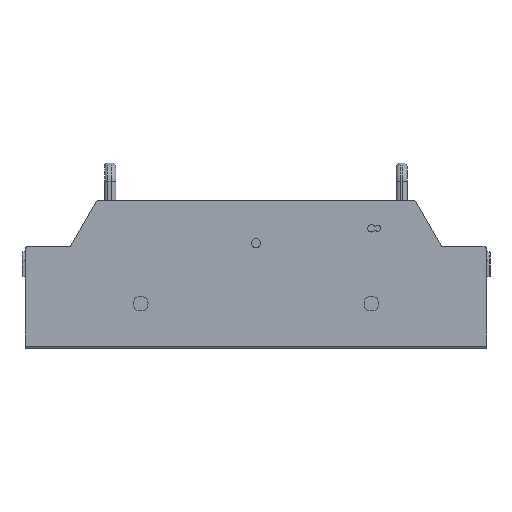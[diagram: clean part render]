
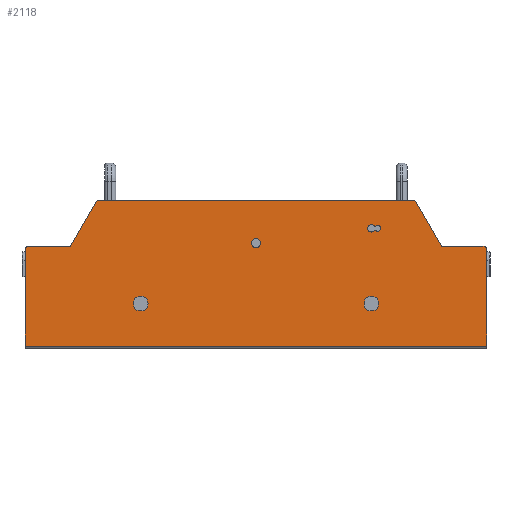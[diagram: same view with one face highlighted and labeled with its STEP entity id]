
A CAD part, top view. The second image highlights one B-rep face of the part: STEP entity #2118.
In plain terms, the highlighted planar face has unit normal (0, 0, 1).
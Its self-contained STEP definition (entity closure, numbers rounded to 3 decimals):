
#129=DIRECTION('',(0.,-1.,0.));
#130=VECTOR('',#129,105.);
#131=CARTESIAN_POINT('',(-250.,13.422,36.));
#132=LINE('',#131,#130);
#173=DIRECTION('',(1.,0.,0.));
#174=VECTOR('',#173,500.);
#175=CARTESIAN_POINT('',(-250.,-91.578,36.));
#176=LINE('',#175,#174);
#181=CARTESIAN_POINT('',(-247.,13.422,36.));
#182=DIRECTION('',(0.,0.,-1.));
#183=DIRECTION('',(-1.,0.,0.));
#184=AXIS2_PLACEMENT_3D('',#181,#182,#183);
#186=DIRECTION('',(0.5,0.866,0.));
#187=VECTOR('',#186,55.31);
#188=CARTESIAN_POINT('',(-201.261,16.422,36.));
#189=LINE('',#188,#187);
#190=CARTESIAN_POINT('',(-171.008,62.822,36.));
#191=DIRECTION('',(0.,0.,-1.));
#192=DIRECTION('',(-0.866,0.5,0.));
#193=AXIS2_PLACEMENT_3D('',#190,#191,#192);
#195=CARTESIAN_POINT('',(171.008,62.822,36.));
#196=DIRECTION('',(0.,0.,-1.));
#197=DIRECTION('',(0.,1.,0.));
#198=AXIS2_PLACEMENT_3D('',#195,#196,#197);
#200=DIRECTION('',(0.5,-0.866,0.));
#201=VECTOR('',#200,55.31);
#202=CARTESIAN_POINT('',(173.606,64.322,36.));
#203=LINE('',#202,#201);
#204=CARTESIAN_POINT('',(247.,13.422,36.));
#205=DIRECTION('',(0.,0.,-1.));
#206=DIRECTION('',(0.,1.,0.));
#207=AXIS2_PLACEMENT_3D('',#204,#205,#206);
#209=CARTESIAN_POINT('',(0.,20.004,36.));
#210=DIRECTION('',(0.,0.,1.));
#211=DIRECTION('',(1.,0.,0.));
#212=AXIS2_PLACEMENT_3D('',#209,#210,#211);
#214=CARTESIAN_POINT('',(0.,20.004,36.));
#215=DIRECTION('',(0.,0.,1.));
#216=DIRECTION('',(-1.,0.,0.));
#217=AXIS2_PLACEMENT_3D('',#214,#215,#216);
#219=CARTESIAN_POINT('',(-125.,-45.54,36.));
#220=DIRECTION('',(0.,0.,1.));
#221=DIRECTION('',(1.,0.,0.));
#222=AXIS2_PLACEMENT_3D('',#219,#220,#221);
#224=CARTESIAN_POINT('',(-125.,-45.54,36.));
#225=DIRECTION('',(0.,0.,1.));
#226=DIRECTION('',(-1.,0.,0.));
#227=AXIS2_PLACEMENT_3D('',#224,#225,#226);
#229=CARTESIAN_POINT('',(125.,-45.54,36.));
#230=DIRECTION('',(0.,0.,1.));
#231=DIRECTION('',(1.,0.,0.));
#232=AXIS2_PLACEMENT_3D('',#229,#230,#231);
#234=CARTESIAN_POINT('',(125.,-45.54,36.));
#235=DIRECTION('',(0.,0.,1.));
#236=DIRECTION('',(-1.,0.,0.));
#237=AXIS2_PLACEMENT_3D('',#234,#235,#236);
#239=DIRECTION('',(-1.,0.,0.));
#240=VECTOR('',#239,1.167);
#241=CARTESIAN_POINT('',(129.581,38.002,36.));
#242=LINE('',#241,#240);
#243=CARTESIAN_POINT('',(124.95,36.002,36.));
#244=DIRECTION('',(0.,0.,1.));
#245=DIRECTION('',(0.866,0.5,0.));
#246=AXIS2_PLACEMENT_3D('',#243,#244,#245);
#248=DIRECTION('',(1.,0.,0.));
#249=VECTOR('',#248,1.167);
#250=CARTESIAN_POINT('',(128.414,34.002,36.));
#251=LINE('',#250,#249);
#252=CARTESIAN_POINT('',(131.95,36.002,36.));
#253=DIRECTION('',(0.,0.,1.));
#254=DIRECTION('',(-0.764,-0.645,0.));
#255=AXIS2_PLACEMENT_3D('',#252,#253,#254);
#269=DIRECTION('',(-1.,0.,0.));
#270=VECTOR('',#269,45.739);
#271=CARTESIAN_POINT('',(-201.261,16.422,36.));
#272=LINE('',#271,#270);
#281=DIRECTION('',(-1.,0.,0.));
#282=VECTOR('',#281,342.016);
#283=CARTESIAN_POINT('',(171.008,65.822,36.));
#284=LINE('',#283,#282);
#409=DIRECTION('',(-1.,0.,0.));
#410=VECTOR('',#409,45.739);
#411=CARTESIAN_POINT('',(247.,16.422,36.));
#412=LINE('',#411,#410);
#426=DIRECTION('',(0.,1.,0.));
#427=VECTOR('',#426,105.);
#428=CARTESIAN_POINT('',(250.,-91.578,36.));
#429=LINE('',#428,#427);
#1559=CARTESIAN_POINT('',(-250.,-91.578,36.));
#1561=VERTEX_POINT('',#1559);
#1563=CARTESIAN_POINT('',(-250.,13.422,36.));
#1564=VERTEX_POINT('',#1563);
#1573=CARTESIAN_POINT('',(250.,-91.578,36.));
#1574=VERTEX_POINT('',#1573);
#1577=CARTESIAN_POINT('',(-247.,16.422,36.));
#1578=VERTEX_POINT('',#1577);
#1579=CARTESIAN_POINT('',(-201.261,16.422,36.));
#1580=VERTEX_POINT('',#1579);
#1581=CARTESIAN_POINT('',(-173.606,64.322,36.));
#1582=VERTEX_POINT('',#1581);
#1583=CARTESIAN_POINT('',(-171.008,65.822,36.));
#1584=VERTEX_POINT('',#1583);
#1585=CARTESIAN_POINT('',(171.008,65.822,36.));
#1586=VERTEX_POINT('',#1585);
#1587=CARTESIAN_POINT('',(173.606,64.322,36.));
#1588=VERTEX_POINT('',#1587);
#1589=CARTESIAN_POINT('',(201.261,16.422,36.));
#1590=VERTEX_POINT('',#1589);
#1591=CARTESIAN_POINT('',(247.,16.422,36.));
#1592=VERTEX_POINT('',#1591);
#1593=CARTESIAN_POINT('',(250.,13.422,36.));
#1594=VERTEX_POINT('',#1593);
#1595=CARTESIAN_POINT('',(5.,20.004,36.));
#1596=CARTESIAN_POINT('',(-5.,20.004,36.));
#1597=VERTEX_POINT('',#1595);
#1598=VERTEX_POINT('',#1596);
#1599=CARTESIAN_POINT('',(-117.,-45.54,36.));
#1600=CARTESIAN_POINT('',(-133.,-45.54,36.));
#1601=VERTEX_POINT('',#1599);
#1602=VERTEX_POINT('',#1600);
#1603=CARTESIAN_POINT('',(133.,-45.54,36.));
#1604=CARTESIAN_POINT('',(117.,-45.54,36.));
#1605=VERTEX_POINT('',#1603);
#1606=VERTEX_POINT('',#1604);
#1807=CARTESIAN_POINT('',(129.581,38.002,36.));
#1808=CARTESIAN_POINT('',(128.414,38.002,36.));
#1809=VERTEX_POINT('',#1807);
#1810=VERTEX_POINT('',#1808);
#1811=CARTESIAN_POINT('',(128.414,34.002,36.));
#1812=VERTEX_POINT('',#1811);
#1813=CARTESIAN_POINT('',(129.581,34.002,36.));
#1814=VERTEX_POINT('',#1813);
#2061=CARTESIAN_POINT('',(0.,0.,36.));
#2062=DIRECTION('',(0.,0.,1.));
#2063=DIRECTION('',(-1.,0.,0.));
#2064=AXIS2_PLACEMENT_3D('',#2061,#2062,#2063);
#2065=PLANE('',#2064);
#2066=ORIENTED_EDGE('',*,*,#2052,.F.);
#2067=ORIENTED_EDGE('',*,*,#2015,.F.);
#2069=ORIENTED_EDGE('',*,*,#2068,.T.);
#2071=ORIENTED_EDGE('',*,*,#2070,.F.);
#2073=ORIENTED_EDGE('',*,*,#2072,.T.);
#2075=ORIENTED_EDGE('',*,*,#2074,.T.);
#2077=ORIENTED_EDGE('',*,*,#2076,.F.);
#2079=ORIENTED_EDGE('',*,*,#2078,.T.);
#2081=ORIENTED_EDGE('',*,*,#2080,.T.);
#2083=ORIENTED_EDGE('',*,*,#2082,.F.);
#2085=ORIENTED_EDGE('',*,*,#2084,.T.);
#2087=ORIENTED_EDGE('',*,*,#2086,.F.);
#2088=EDGE_LOOP('',(#2066,#2067,#2069,#2071,#2073,#2075,#2077,#2079,#2081,#2083,
#2085,#2087));
#2089=FACE_OUTER_BOUND('',#2088,.F.);
#2091=ORIENTED_EDGE('',*,*,#2090,.T.);
#2093=ORIENTED_EDGE('',*,*,#2092,.T.);
#2094=EDGE_LOOP('',(#2091,#2093));
#2095=FACE_BOUND('',#2094,.F.);
#2097=ORIENTED_EDGE('',*,*,#2096,.T.);
#2099=ORIENTED_EDGE('',*,*,#2098,.T.);
#2100=EDGE_LOOP('',(#2097,#2099));
#2101=FACE_BOUND('',#2100,.F.);
#2103=ORIENTED_EDGE('',*,*,#2102,.T.);
#2105=ORIENTED_EDGE('',*,*,#2104,.T.);
#2106=EDGE_LOOP('',(#2103,#2105));
#2107=FACE_BOUND('',#2106,.F.);
#2109=ORIENTED_EDGE('',*,*,#2108,.T.);
#2111=ORIENTED_EDGE('',*,*,#2110,.T.);
#2113=ORIENTED_EDGE('',*,*,#2112,.T.);
#2115=ORIENTED_EDGE('',*,*,#2114,.T.);
#2116=EDGE_LOOP('',(#2109,#2111,#2113,#2115));
#2117=FACE_BOUND('',#2116,.F.);
#185=CIRCLE('',#184,3.);
#194=CIRCLE('',#193,3.);
#199=CIRCLE('',#198,3.);
#208=CIRCLE('',#207,3.);
#213=CIRCLE('',#212,5.);
#218=CIRCLE('',#217,5.);
#223=CIRCLE('',#222,8.);
#228=CIRCLE('',#227,8.);
#233=CIRCLE('',#232,8.);
#238=CIRCLE('',#237,8.);
#247=CIRCLE('',#246,4.);
#256=CIRCLE('',#255,3.1);
#2015=EDGE_CURVE('',#1564,#1561,#132,.T.);
#2052=EDGE_CURVE('',#1561,#1574,#176,.T.);
#2068=EDGE_CURVE('',#1564,#1578,#185,.T.);
#2070=EDGE_CURVE('',#1580,#1578,#272,.T.);
#2072=EDGE_CURVE('',#1580,#1582,#189,.T.);
#2074=EDGE_CURVE('',#1582,#1584,#194,.T.);
#2076=EDGE_CURVE('',#1586,#1584,#284,.T.);
#2078=EDGE_CURVE('',#1586,#1588,#199,.T.);
#2080=EDGE_CURVE('',#1588,#1590,#203,.T.);
#2082=EDGE_CURVE('',#1592,#1590,#412,.T.);
#2084=EDGE_CURVE('',#1592,#1594,#208,.T.);
#2086=EDGE_CURVE('',#1574,#1594,#429,.T.);
#2090=EDGE_CURVE('',#1597,#1598,#213,.T.);
#2092=EDGE_CURVE('',#1598,#1597,#218,.T.);
#2096=EDGE_CURVE('',#1601,#1602,#223,.T.);
#2098=EDGE_CURVE('',#1602,#1601,#228,.T.);
#2102=EDGE_CURVE('',#1605,#1606,#233,.T.);
#2104=EDGE_CURVE('',#1606,#1605,#238,.T.);
#2108=EDGE_CURVE('',#1809,#1810,#242,.T.);
#2110=EDGE_CURVE('',#1810,#1812,#247,.T.);
#2112=EDGE_CURVE('',#1812,#1814,#251,.T.);
#2114=EDGE_CURVE('',#1814,#1809,#256,.T.);
#2118=ADVANCED_FACE('',(#2089,#2095,#2101,#2107,#2117),#2065,.T.);
